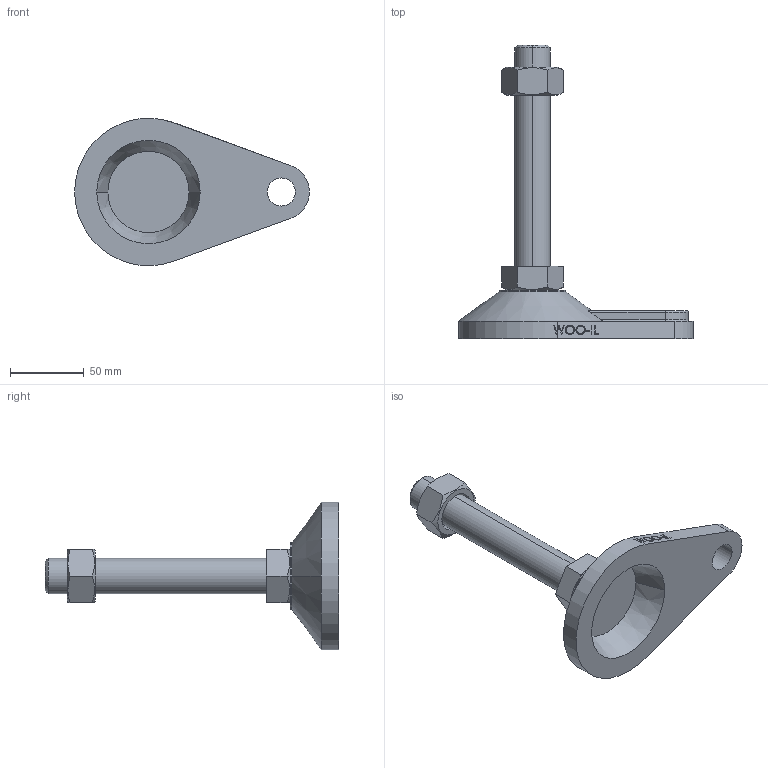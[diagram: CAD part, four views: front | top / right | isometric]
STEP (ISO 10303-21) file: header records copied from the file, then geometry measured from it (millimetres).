
FILE_DESCRIPTION (( 'STEP AP214' ), '1' );
FILE_NAME ('PAD-A100-M24-150.step', '2021-03-08T08:08:40', ( '' ), ( '' ), 'SwSTEP 2.0', 'SolidWorks 2019', '' );
FILE_SCHEMA (( 'AUTOMOTIVE_DESIGN' ));
Length unit declared in the file: millimetre
Products named in the file (2): PAD-A100-M24-150
Bounding box: 159 x 199 x 100 mm (x, y, z)
Volume: 264435.5 mm3; surface area: 52991.3 mm2
Topology: 3 solids, 3 shells, 112 faces, 275 edges, 178 vertices
Faces by surface type: plane 61, cylinder 17, cone 16, bspline 16, torus 2
Entity records: 4863 total; most frequent: CARTESIAN_POINT 2269, ORIENTED_EDGE 550, DIRECTION 462, EDGE_CURVE 275, VERTEX_POINT 178, LINE 156, VECTOR 156, AXIS2_PLACEMENT_3D 153
